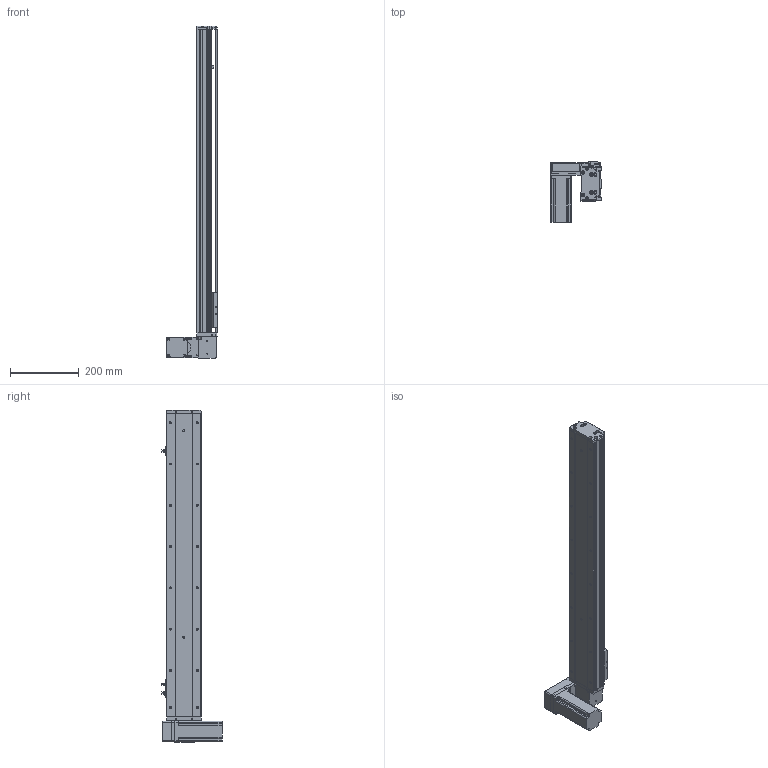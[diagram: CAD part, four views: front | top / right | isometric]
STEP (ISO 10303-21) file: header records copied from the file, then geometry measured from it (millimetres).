
FILE_DESCRIPTION (( 'STEP AP214' ), '1' );
FILE_NAME ('KSD100B-S700-MLD-CM.STEP', '2019-08-31T06:54:59', ( '微软用户' ), ( '微软中国' ), 'SwSTEP 2.0', 'SolidWorks 2014', '' );
FILE_SCHEMA (( 'AUTOMOTIVE_DESIGN' ));
Length unit declared in the file: millimetre
Products named in the file (12): 悵誘欶奻狟殏; 100宽马达安装板连板上下折丝杆同步带; 台达ECMA－C20604AS伺服电机; U倰嫖萇EEㄜSX672; 覜茼え100遵圉猾敕; 100宽防尘板700行程-同步带; 100宽马达安装板同步带左; 100宽同步带安装板半封闭; 100宽马达安装板同步带; 100遵傷啣肮祭湍; 100宽底板半封闭同步带700行程; KSD100B-S700-MLD-CM
Assembly tree (13 placements, depth 2):
  KSD100B-S700-MLD-CM
    100宽底板半封闭同步带700行程
    100遵傷啣肮祭湍
    100宽马达安装板同步带
    100宽同步带安装板半封闭
    100宽马达安装板同步带左
    100宽防尘板700行程-同步带
    覜茼え100遵圉猾敕
    U倰嫖萇EEㄜSX672  x3
    台达ECMA－C20604AS伺服电机
    100宽马达安装板连板上下折丝杆同步带
    悵誘欶奻狟殏
Bounding box: 148 x 174.7 x 965 mm (x, y, z)
Volume: 2361882 mm3; surface area: 767082.5 mm2
Topology: 14 solids, 14 shells, 1393 faces, 3908 edges, 2497 vertices
Faces by surface type: cylinder 691, plane 583, cone 119
Entity records: 48897 total; most frequent: CARTESIAN_POINT 9362, DIRECTION 6756, ORIENTED_EDGE 6484, EDGE_CURVE 3242, AXIS2_PLACEMENT_3D 2461, VERTEX_POINT 2121, VECTOR 1834, LINE 1834
